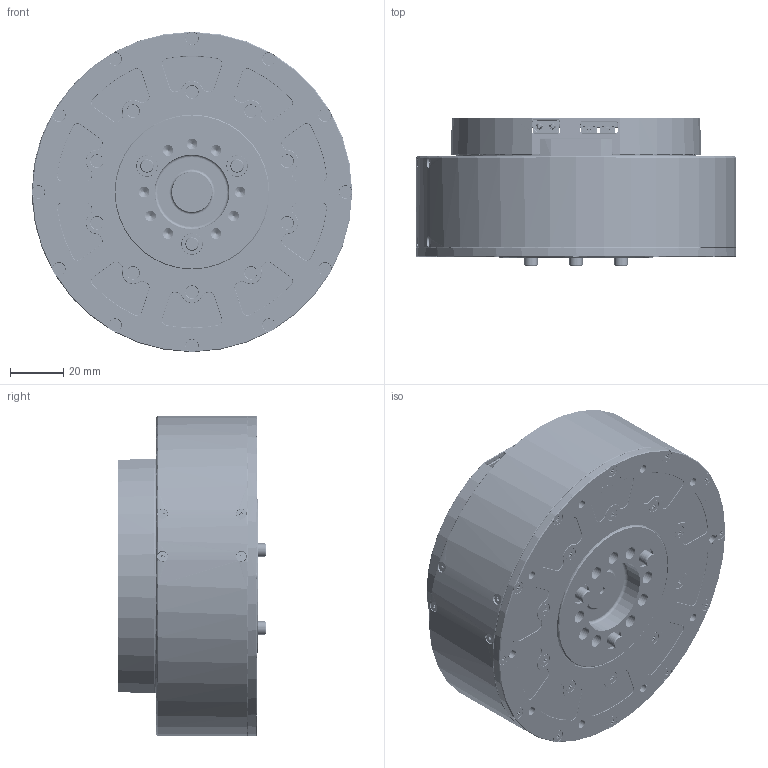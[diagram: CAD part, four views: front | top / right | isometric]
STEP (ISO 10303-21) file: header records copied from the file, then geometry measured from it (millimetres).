
FILE_DESCRIPTION (( 'STEP AP214' ), '1' );
FILE_NAME ('CP.BM.000081-P1010A-111 减速电机（外发）.STEP', '2024-04-17T01:45:26', ( '003' ), ( '' ), 'SwSTEP 2.0', 'SolidWorks 2018', '' );
FILE_SCHEMA (( 'AUTOMOTIVE_DESIGN' ));
Length unit declared in the file: millimetre
Products named in the file (1): CP.BM.000081-P1010A-111 减速电机（外发）
Bounding box: 120 x 55.7 x 120 mm (x, y, z)
Volume: 443190.6 mm3; surface area: 112505.2 mm2
Topology: 34 solids, 70 shells, 9055 faces, 24112 edges, 15603 vertices
Faces by surface type: plane 5019, cylinder 1725, bspline 1239, cone 755, torus 300, sphere 17
Entity records: 315121 total; most frequent: CARTESIAN_POINT 95801, ORIENTED_EDGE 48078, DIRECTION 41560, EDGE_CURVE 24039, VERTEX_POINT 15603, LINE 14644, VECTOR 14644, AXIS2_PLACEMENT_3D 13458
